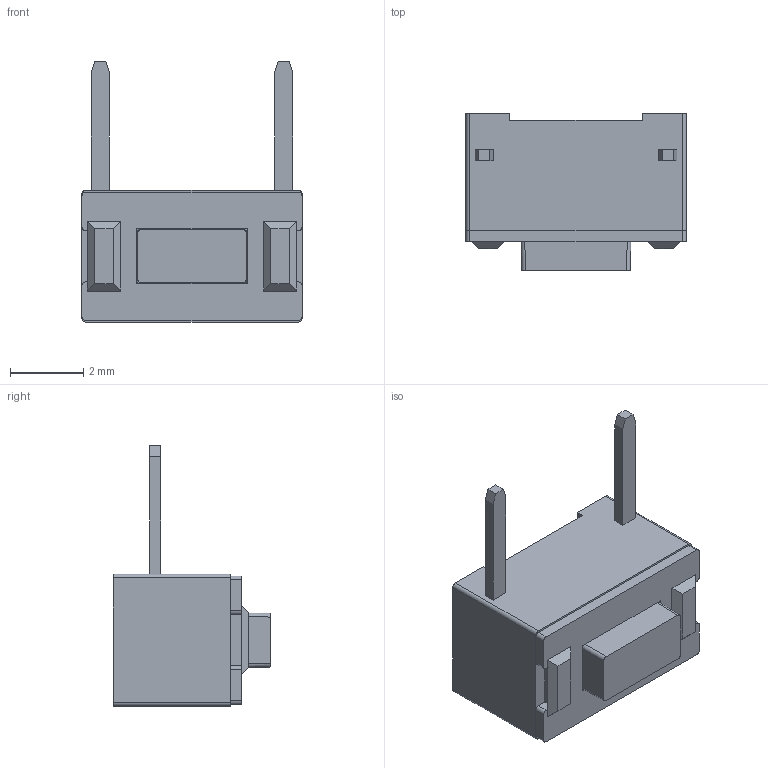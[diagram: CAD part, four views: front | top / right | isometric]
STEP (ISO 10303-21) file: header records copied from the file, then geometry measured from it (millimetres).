
FILE_DESCRIPTION((''),'2;1');
FILE_NAME('JQC3560-B0503-G-104_ASM','2026-04-13T16:18:37',('Admin'),(''),'CREO PARAMETRIC BY PTC INC, 2019224','CREO PARAMETRIC BY PTC INC, 2019224','');
FILE_SCHEMA(('AUTOMOTIVE_DESIGN { 1 0 10303 214 1 1 1 1 }'));
Length unit declared in the file: millimetre
Products named in the file (3): JQC3560-B0503-G-104_06; JQC3560-B0503-G-104_04; JQC3560-B0503-G-104_ASM
Assembly tree (2 placements, depth 2):
  JQC3560-B0503-G-104_ASM
    JQC3560-B0503-G-104_06
    JQC3560-B0503-G-104_04
Bounding box: 6 x 4.3 x 7.1 mm (x, y, z)
Volume: 77.4 mm3; surface area: 169.4 mm2
Topology: 2 solids, 2 shells, 106 faces, 288 edges, 196 vertices
Faces by surface type: plane 90, cylinder 16
Entity records: 4367 total; most frequent: CARTESIAN_POINT 634, ORIENTED_EDGE 552, DIRECTION 538, EDGE_CURVE 276, VECTOR 252, LINE 252, PRESENTATION_STYLE_ASSIGNMENT 219, STYLED_ITEM 196
